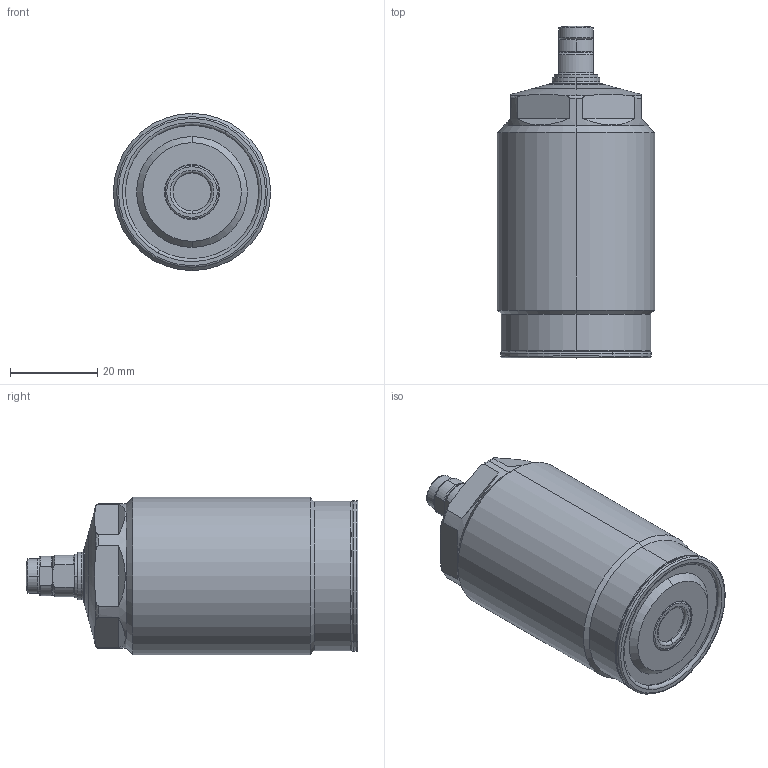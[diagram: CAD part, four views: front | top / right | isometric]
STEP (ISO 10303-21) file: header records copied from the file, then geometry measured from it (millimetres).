
FILE_DESCRIPTION(/* description */ (''),/* implementation_level */ '2;1');
FILE_NAME(/* name */ 'TNL36-M.stp',/* time_stamp */ '2023-07-04T11:19:42+08:00',/* author */ (''),/* organization */ (''),/* preprocessor_version */ 'ST-DEVELOPER v16.7',/* originating_system */ 'SIEMENS PLM Software NX 12.0',/* authorisation */ '');
FILE_SCHEMA (('AP203_CONFIGURATION_CONTROLLED_3D_DESIGN_OF_MECHANICAL_PARTS_AND_ASSEMBLIES_MIM_LF { 1 0 10303 403 2 1 2}'));
Length unit declared in the file: millimetre
Products named in the file (9): XLD-M6SP_pad; XLD-M6SP_pin; XLD-M6SP_contactbolt; XLD-M6SP_Oring; TNL36-01; TNL36-02; TNL36-05; XLDM6SP; TNL36_stp
Assembly tree (8 placements, depth 3):
  TNL36_stp
    TNL36-05
    TNL36-02
    TNL36-01
    XLDM6SP
      XLD-M6SP_Oring
      XLD-M6SP_contactbolt
      XLD-M6SP_pin
      XLD-M6SP_pad
Bounding box: 36 x 76 x 36 mm (x, y, z)
Volume: 59616.1 mm3; surface area: 10933.8 mm2
Topology: 7 solids, 7 shells, 204 faces, 460 edges, 278 vertices
Faces by surface type: cylinder 57, torus 55, plane 45, cone 43, sphere 4
Entity records: 7349 total; most frequent: CARTESIAN_POINT 1647, DIRECTION 1091, ORIENTED_EDGE 920, AXIS2_PLACEMENT_3D 478, EDGE_CURVE 460, VERTEX_POINT 278, CIRCLE 265, EDGE_LOOP 226
